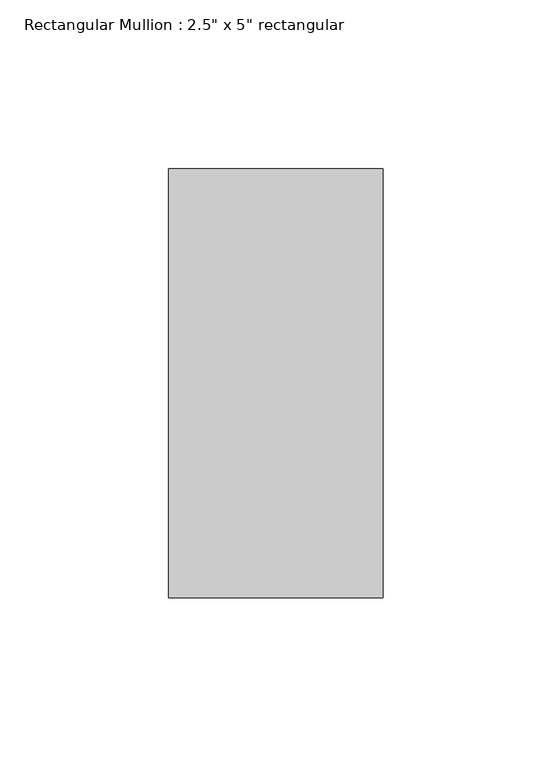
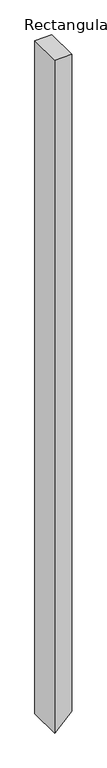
"""IFC4 building model written with IfcOpenShell, lengths in millimetres: member geometry."""

from ifc_helpers import new_model, si_unit, frame, origin, place, context, project, spatial, polyline, outline, extrude, source, transform, mapped, element, save


def member_20455e82(model_context):
    return source(origin(), model_context, "Body", "SweptSolid", [
        extrude(outline(polyline([(0.0, 31.75), (0.0, -31.75), (-2653.397439, -31.75), (-2589.897439, 31.75), (0.0, 31.75)])), frame((0.0, -63.5, 0.0), z_axis=(0.0, 1.0, 0.0), x_axis=(0.0, 0.0, 1.0)), (0.0, 0.0, 1.0), 127.0),
    ])


if __name__ == "__main__":
    model = new_model("IFC4")
    model_context = context("Model", 3, world=origin())
    ifc_project = project(units=[si_unit("LENGTHUNIT", "METRE", prefix="MILLI")], contexts=[model_context])
    site = spatial("IfcSite", under=ifc_project)
    building = spatial("IfcBuilding", under=site)
    placement = place(None, origin())
    member_shape = member_20455e82(model_context)
    element("IfcMember", 1, ObjectType="Rectangular Mullion : 2.5\" x 5\" rectangular", at=placement, inside=building, context=model_context, shape_type="MappedRepresentation", body=[
        mapped(member_shape, transform((0.0, 0.0, 0.0), x_axis=(1.0, 0.0, 0.0), y_axis=(0.0, 1.0, 0.0), z_axis=(0.0, 0.0, 1.0))),
    ])
    save(model, "model.ifc")
